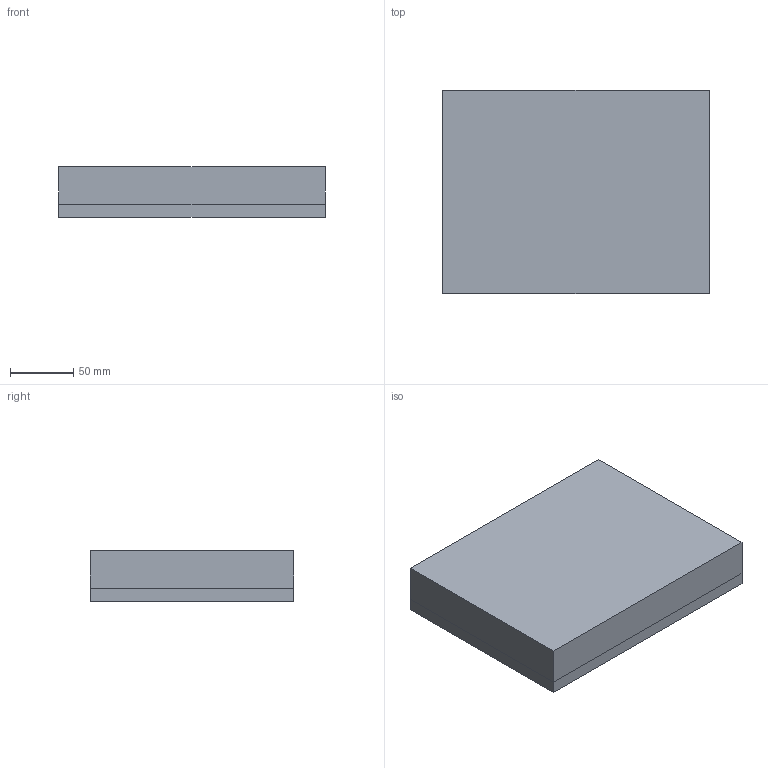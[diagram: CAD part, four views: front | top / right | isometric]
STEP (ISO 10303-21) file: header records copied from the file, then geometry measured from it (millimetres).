
FILE_DESCRIPTION(('CATIA V5 STEP Exchange'),'2;1');
FILE_NAME('C:\_Andres\UNIVERSIDAD\IQS\ASIGNATURAS\DAO\Controles\1920\c2\c2-Garcia-Dorado_Calvo_David.stp','2020-02-10T15:38:06+00:00',('none'),('none'),'CATIA Version 5 Release 19 SP 3 (IN-10)','CATIA V5 STEP AP203','none');
FILE_SCHEMA(('CONFIG_CONTROL_DESIGN'));
Length unit declared in the file: millimetre
Products named in the file (1): c2-Garcia-Dorado_Calvo_David
Bounding box: 210 x 160 x 40 mm (x, y, z)
Surface area: 240725.8 mm2
Topology: 3 solids, 3 shells, 103 faces, 232 edges, 128 vertices
Faces by surface type: cylinder 40, plane 27, bspline 24, sphere 12
Entity records: 3348 total; most frequent: CARTESIAN_POINT 1636, ORIENTED_EDGE 440, DIRECTION 224, EDGE_CURVE 164, EDGE_LOOP 110, ADVANCED_FACE 103, FACE_OUTER_BOUND 103, AXIS2_PLACEMENT_3D 96
